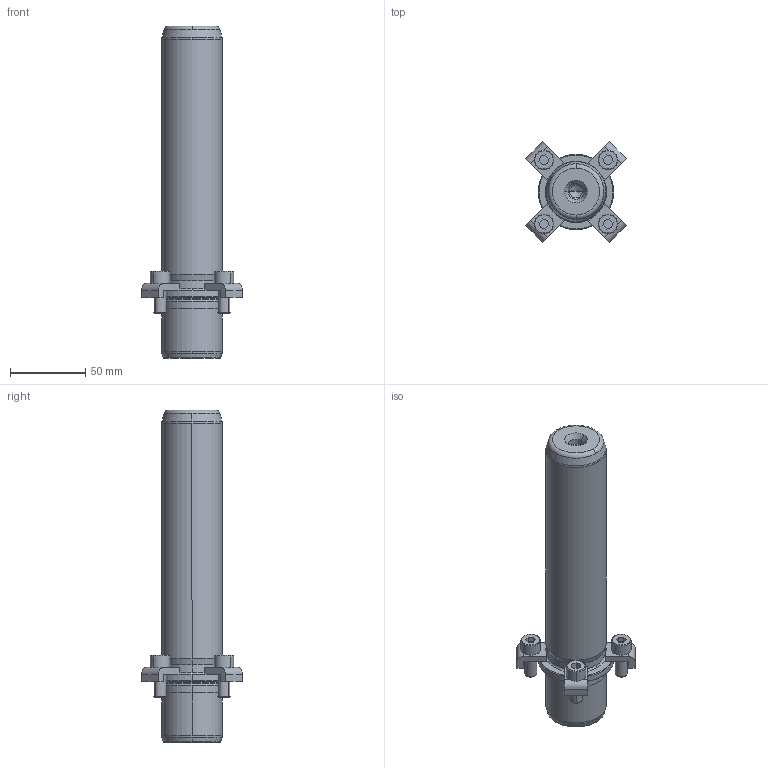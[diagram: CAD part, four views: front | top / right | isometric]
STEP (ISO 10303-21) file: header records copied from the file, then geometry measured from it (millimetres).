
FILE_DESCRIPTION((''),'2;1');
FILE_NAME('P21_040_180.stp','2008-12-23T11:25:56',(''),(''),'Mechanical Desktop 2009','Mechanical Desktop 2009',', , ');
FILE_SCHEMA(('CONFIG_CONTROL_DESIGN'));
Length unit declared in the file: millimetre
Products named in the file (2): Product; blmdl1
Assembly tree (1 placements, depth 2):
  Product
    blmdl1
Bounding box: 66.82 x 66.82 x 220 mm (x, y, z)
Volume: 286592.7 mm3; surface area: 41913.2 mm2
Topology: 9 solids, 9 shells, 203 faces, 501 edges, 325 vertices
Faces by surface type: plane 81, cylinder 56, cone 34, torus 16, bspline 16
Entity records: 6819 total; most frequent: CARTESIAN_POINT 1731, DIRECTION 1126, ORIENTED_EDGE 994, EDGE_CURVE 497, AXIS2_PLACEMENT_3D 440, VERTEX_POINT 325, CIRCLE 251, VECTOR 246
